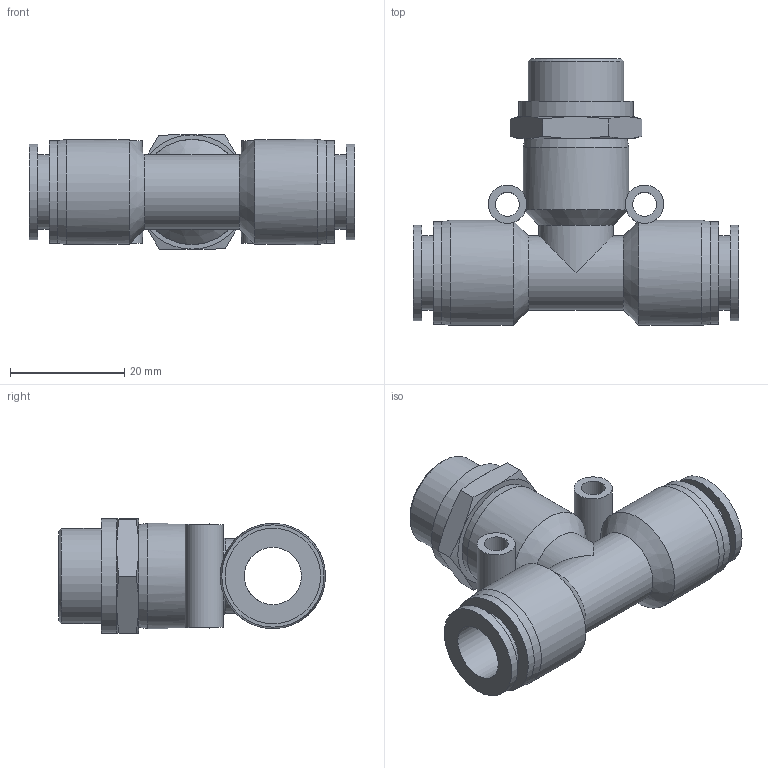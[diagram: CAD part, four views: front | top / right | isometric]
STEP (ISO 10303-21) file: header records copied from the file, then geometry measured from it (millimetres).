
FILE_DESCRIPTION((''),'2;1');
FILE_NAME('S:\UTecnico\ArchivioUT\Speciali Clienti\Speciali KONFIT\DISEGNI 3D\RP\RP 70\RP703810.stp','2012-05-24T09:27:03',('UT5'),(''),'Autodesk Inventor 2012','Autodesk Inventor 2012','');
FILE_SCHEMA(('AUTOMOTIVE_DESIGN { 1 0 10303 214 1 1 1 1 }'));
Length unit declared in the file: millimetre
Products named in the file (1): RP703810
Bounding box: 57 x 46.7 x 20.07 mm (x, y, z)
Volume: 13548.8 mm3; surface area: 9723.7 mm2
Topology: 1 solids, 1 shells, 59 faces, 137 edges, 85 vertices
Faces by surface type: cylinder 20, plane 20, cone 19
Full cylindrical faces by diameter (mm): 4.2 x2, 6.7 x2, 8 x1, 10 x1, 11 x1, 13 x4, 16.662 x1, 16.7 x2, 17.9 x2, 18.4 x3, 20 x1
Entity records: 1636 total; most frequent: CARTESIAN_POINT 469, DIRECTION 234, ORIENTED_EDGE 186, AXIS2_PLACEMENT_3D 114, EDGE_LOOP 106, EDGE_CURVE 93, VERTEX_POINT 71, FACE_OUTER_BOUND 59
